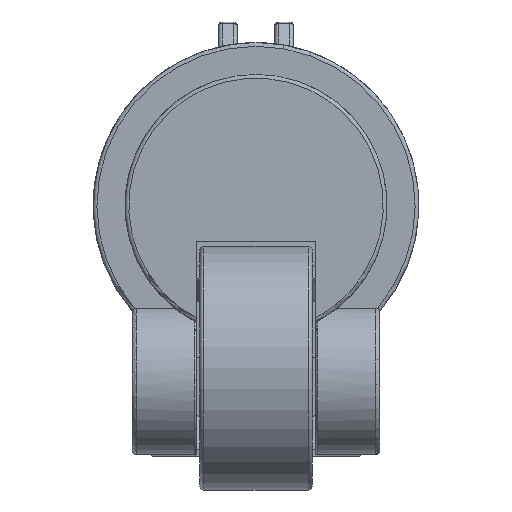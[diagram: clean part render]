
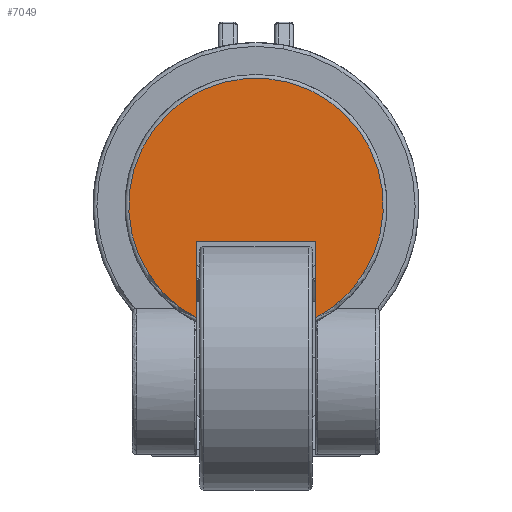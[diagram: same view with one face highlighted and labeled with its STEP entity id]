
A CAD part, front view. The second image highlights one B-rep face of the part: STEP entity #7049.
In plain terms, the highlighted planar face has unit normal (0, -1, 0).
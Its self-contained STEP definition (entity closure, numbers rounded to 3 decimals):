
#126 = CARTESIAN_POINT ( 'NONE',  ( 16., -73.5, -30. ) ) ;
#159 = DIRECTION ( 'NONE',  ( 0., 0., -1. ) ) ;
#740 = CARTESIAN_POINT ( 'NONE',  ( 16., -73.5, -9.507 ) ) ;
#875 = VECTOR ( 'NONE', #8413, 1000. ) ;
#1154 = EDGE_CURVE ( 'NONE', #1843, #2157, #8110, .T. ) ;
#1192 = ORIENTED_EDGE ( 'NONE', *, *, #1154, .F. ) ;
#1440 = VERTEX_POINT ( 'NONE', #5047 ) ;
#1639 = CARTESIAN_POINT ( 'NONE',  ( 0., -73.5, 0. ) ) ;
#1647 = LINE ( 'NONE', #6899, #8492 ) ;
#1843 = VERTEX_POINT ( 'NONE', #7215 ) ;
#2157 = VERTEX_POINT ( 'NONE', #7700 ) ;
#2271 = ORIENTED_EDGE ( 'NONE', *, *, #8467, .F. ) ;
#2728 = AXIS2_PLACEMENT_3D ( 'NONE', #7227, #3249, #7868 ) ;
#2803 = VECTOR ( 'NONE', #7559, 1000. ) ;
#2903 = CIRCLE ( 'NONE', #2728, 34. ) ;
#2919 = DIRECTION ( 'NONE',  ( 0., 0., -1. ) ) ;
#3249 = DIRECTION ( 'NONE',  ( 0., -1., 0. ) ) ;
#3543 = FACE_OUTER_BOUND ( 'NONE', #7434, .T. ) ;
#3603 = DIRECTION ( 'NONE',  ( 0., -1., 0. ) ) ;
#3791 = EDGE_CURVE ( 'NONE', #7353, #1440, #5944, .T. ) ;
#4050 = VECTOR ( 'NONE', #159, 1000. ) ;
#4444 = CARTESIAN_POINT ( 'NONE',  ( 16., -73.5, -9.507 ) ) ;
#4470 = CARTESIAN_POINT ( 'NONE',  ( -16., -73.5, 0. ) ) ;
#4665 = EDGE_CURVE ( 'NONE', #5245, #1843, #5820, .T. ) ;
#5047 = CARTESIAN_POINT ( 'NONE',  ( 16., -73.5, -25.377 ) ) ;
#5142 = AXIS2_PLACEMENT_3D ( 'NONE', #1639, #3603, #7594 ) ;
#5212 = VECTOR ( 'NONE', #8392, 1000. ) ;
#5245 = VERTEX_POINT ( 'NONE', #5303 ) ;
#5303 = CARTESIAN_POINT ( 'NONE',  ( -16., -73.5, -9.507 ) ) ;
#5389 = ORIENTED_EDGE ( 'NONE', *, *, #3791, .F. ) ;
#5820 = LINE ( 'NONE', #7921, #4050 ) ;
#5944 = LINE ( 'NONE', #8214, #2803 ) ;
#5948 = EDGE_CURVE ( 'NONE', #7318, #1440, #1647, .T. ) ;
#6400 = ORIENTED_EDGE ( 'NONE', *, *, #7209, .T. ) ;
#6899 = CARTESIAN_POINT ( 'NONE',  ( 16., -73.5, -9.507 ) ) ;
#6939 = PLANE ( 'NONE',  #5142 ) ;
#6944 = LINE ( 'NONE', #4444, #5212 ) ;
#7049 = ADVANCED_FACE ( 'NONE', ( #3543 ), #6939, .T. ) ;
#7209 = EDGE_CURVE ( 'NONE', #7353, #2157, #2903, .T. ) ;
#7215 = CARTESIAN_POINT ( 'NONE',  ( -16., -73.5, -25.377 ) ) ;
#7227 = CARTESIAN_POINT ( 'NONE',  ( 0., -73.5, 0. ) ) ;
#7318 = VERTEX_POINT ( 'NONE', #740 ) ;
#7353 = VERTEX_POINT ( 'NONE', #126 ) ;
#7434 = EDGE_LOOP ( 'NONE', ( #5389, #6400, #1192, #8258, #2271, #7962 ) ) ;
#7559 = DIRECTION ( 'NONE',  ( 0., 0., 1. ) ) ;
#7594 = DIRECTION ( 'NONE',  ( 0., 0., -1. ) ) ;
#7700 = CARTESIAN_POINT ( 'NONE',  ( -16., -73.5, -30. ) ) ;
#7868 = DIRECTION ( 'NONE',  ( 0., 0., -1. ) ) ;
#7921 = CARTESIAN_POINT ( 'NONE',  ( -16., -73.5, -9.507 ) ) ;
#7962 = ORIENTED_EDGE ( 'NONE', *, *, #5948, .T. ) ;
#8110 = LINE ( 'NONE', #4470, #875 ) ;
#8214 = CARTESIAN_POINT ( 'NONE',  ( 16., -73.5, 0. ) ) ;
#8258 = ORIENTED_EDGE ( 'NONE', *, *, #4665, .F. ) ;
#8392 = DIRECTION ( 'NONE',  ( -1., 0., 0. ) ) ;
#8413 = DIRECTION ( 'NONE',  ( 0., 0., -1. ) ) ;
#8467 = EDGE_CURVE ( 'NONE', #7318, #5245, #6944, .T. ) ;
#8492 = VECTOR ( 'NONE', #2919, 1000. ) ;
